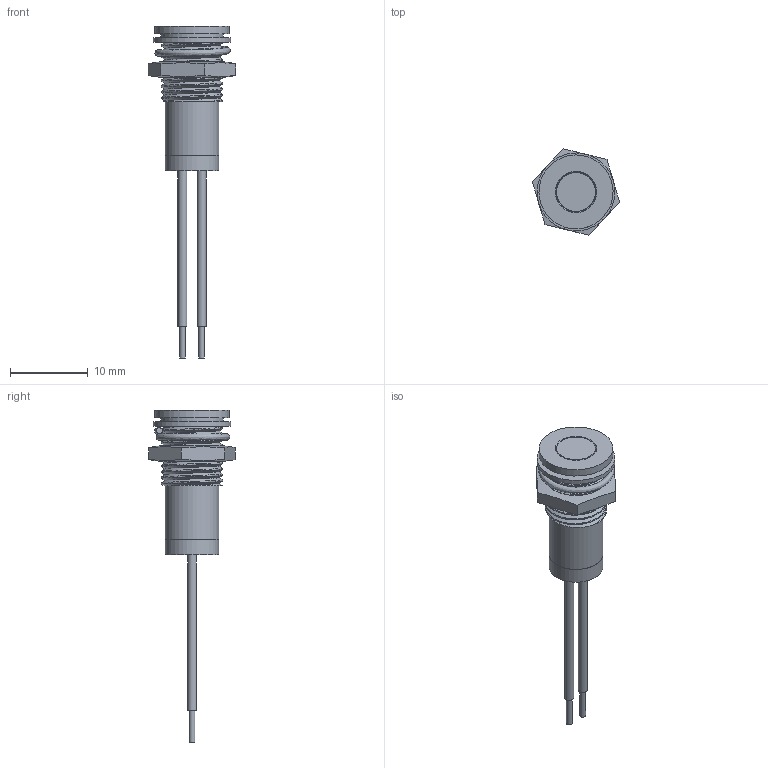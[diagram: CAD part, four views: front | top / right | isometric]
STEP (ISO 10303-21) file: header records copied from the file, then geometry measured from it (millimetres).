
FILE_DESCRIPTION( ( 'Unknown' ), '1' );
FILE_NAME( 'D:/My Documents/Q series 3D files/Q8F7CXXR.stp', 'Unknown', ( 'Unknown' ), ( 'Unknown' ), 'PSStep 15.0.49', 'Unknown', ' ' );
FILE_SCHEMA( ( 'AUTOMOTIVE_DESIGN { 1 0 10303 214 1 1 1 1 }' ) );
Length unit declared in the file: millimetre
Products named in the file (9): Assem1; 14-0145; wire-red short; wire-black-short; 13-0036; 21-0026; 34-0085; 5mmLED-flat-short-red; 26-0048
Assembly tree (8 placements, depth 2):
  Assem1
    14-0145
    wire-red short
    wire-black-short
    13-0036
    21-0026
    34-0085
    5mmLED-flat-short-red
    26-0048
Bounding box: 11.22 x 11.08 x 42.6 mm (x, y, z)
Volume: 790.8 mm3; surface area: 2049.4 mm2
Topology: 8 solids, 8 shells, 121 faces, 282 edges, 189 vertices
Faces by surface type: plane 70, cylinder 31, cone 11, bspline 8, torus 1
Full cylindrical faces by diameter (mm): 0.75 x4, 1 x2, 1.15 x2, 1.25 x2, 5 x1, 5.1 x1, 5.9 x1, 6 x1, 6.9 x2, 7.8 x1, 8 x1, 9.5 x1, 10 x1
Entity records: 14296 total; most frequent: CARTESIAN_POINT 10606, DIRECTION 527, ORIENTED_EDGE 488, EDGE_CURVE 244, AXIS2_PLACEMENT_3D 214, VERTEX_POINT 178, EDGE_LOOP 170, FACE_OUTER_BOUND 145
